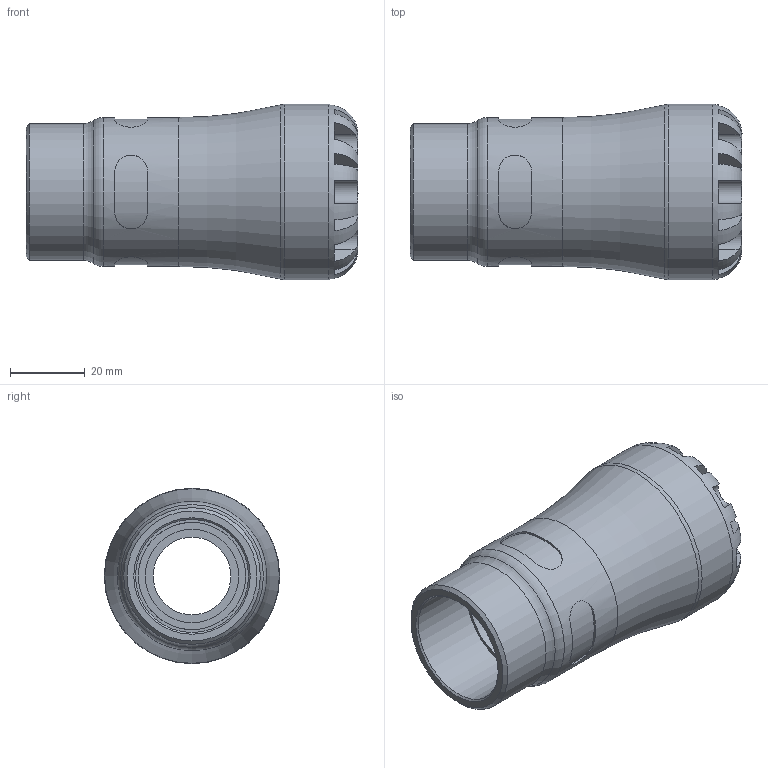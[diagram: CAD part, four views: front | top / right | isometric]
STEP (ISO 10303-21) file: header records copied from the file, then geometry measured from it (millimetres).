
FILE_DESCRIPTION(/* description */ ('PLASSON FEMALE INTEGRAL BRASS THREAD 25X1" SERIES 1'),/* implementation_level */ '2;1');
FILE_NAME(/* name */ 'C:\Dropbox\KIMPROJECTS-Inventor\99-16-3568-Processing\1073\107300025010_197300025010.ipt.stp',/* time_stamp */ '2017-01-22T11:35:26+02:00',/* author */ ('KIM'),/* organization */ (''),/* preprocessor_version */ 'ST-DEVELOPER v15.6',/* originating_system */ 'Autodesk Inventor 2015',/* authorisation */ '');
FILE_SCHEMA (('AUTOMOTIVE_DESIGN { 1 0 10303 214 3 1 1 }'));
Length unit declared in the file: millimetre
Products named in the file (1): 107300025010_197300025010
Bounding box: 89 x 47 x 47 mm (x, y, z)
Volume: 69701 mm3; surface area: 22044.9 mm2
Topology: 1 solids, 1 shells, 108 faces, 263 edges, 165 vertices
Faces by surface type: plane 63, cylinder 37, torus 5, cone 3
Full cylindrical faces by diameter (mm): 20.833 x1, 25 x2, 28.776 x2, 30.291 x1, 36.66 x1, 39.95 x1, 47 x1
Entity records: 3832 total; most frequent: CARTESIAN_POINT 1429, DIRECTION 488, ORIENTED_EDGE 478, EDGE_CURVE 239, AXIS2_PLACEMENT_3D 204, VERTEX_POINT 159, EDGE_LOOP 136, FACE_OUTER_BOUND 108
